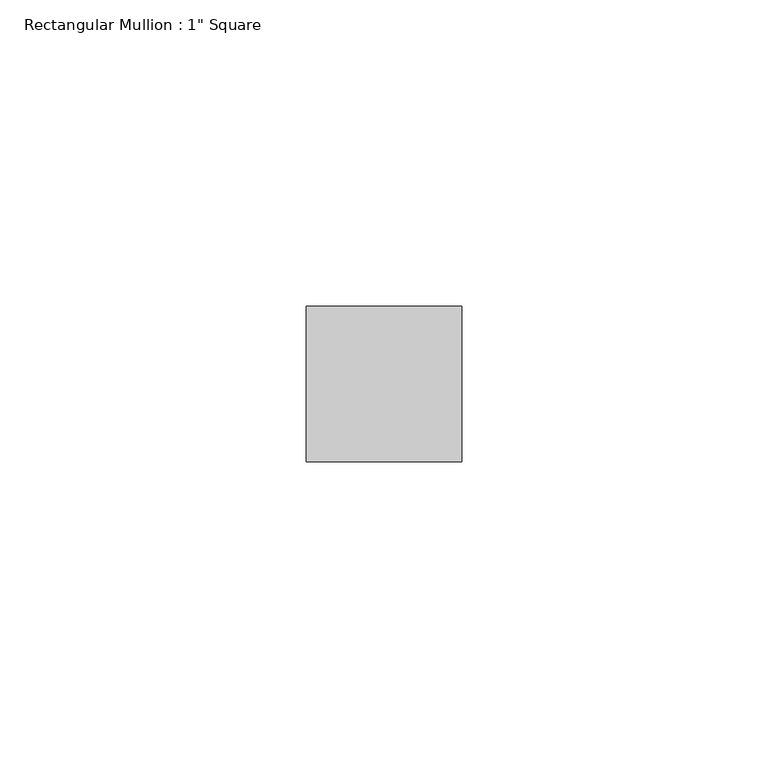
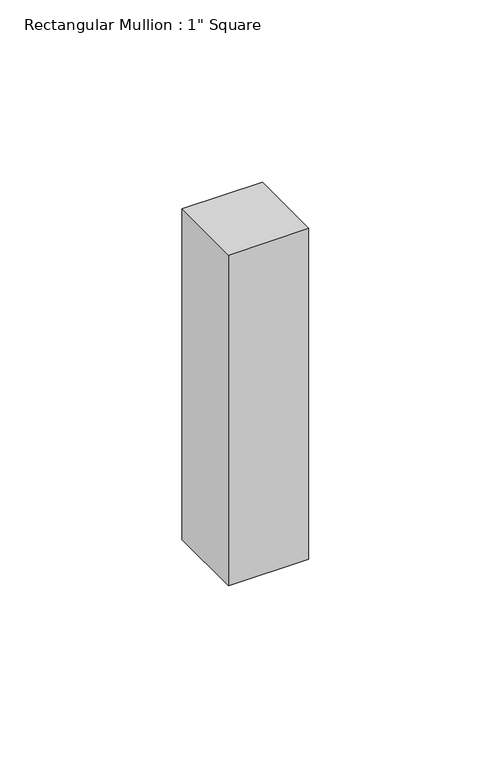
"""IFC4 building model written with IfcOpenShell, lengths in millimetres: member geometry."""

from ifc_helpers import new_model, si_unit, frame, origin, place, context, project, spatial, polyline, outline, extrude, source, transform, mapped, element, save


def member_c2b6c823(model_context):
    return source(origin(), model_context, "Body", "SweptSolid", [
        extrude(outline(polyline([(12.7, 12.7), (12.7, -12.7), (-12.7, -12.7), (-12.7, 12.7), (12.7, 12.7)])), frame((0.0, 0.0, -110.6128235), z_axis=(0.0, 0.0, 1.0), x_axis=(1.0, 0.0, 0.0)), (0.0, 0.0, 1.0), 110.6128235),
    ])


if __name__ == "__main__":
    model = new_model("IFC4")
    model_context = context("Model", 3, world=origin())
    ifc_project = project(units=[si_unit("LENGTHUNIT", "METRE", prefix="MILLI")], contexts=[model_context])
    site = spatial("IfcSite", under=ifc_project)
    building = spatial("IfcBuilding", under=site)
    placement = place(None, origin())
    member_shape = member_c2b6c823(model_context)
    element("IfcMember", 1, ObjectType="Rectangular Mullion : 1\" Square", at=placement, inside=building, context=model_context, shape_type="MappedRepresentation", body=[
        mapped(member_shape, transform((0.0, 0.0, 0.0), x_axis=(1.0, 0.0, 0.0), y_axis=(0.0, 1.0, 0.0), z_axis=(0.0, 0.0, 1.0))),
    ])
    save(model, "model.ifc")
